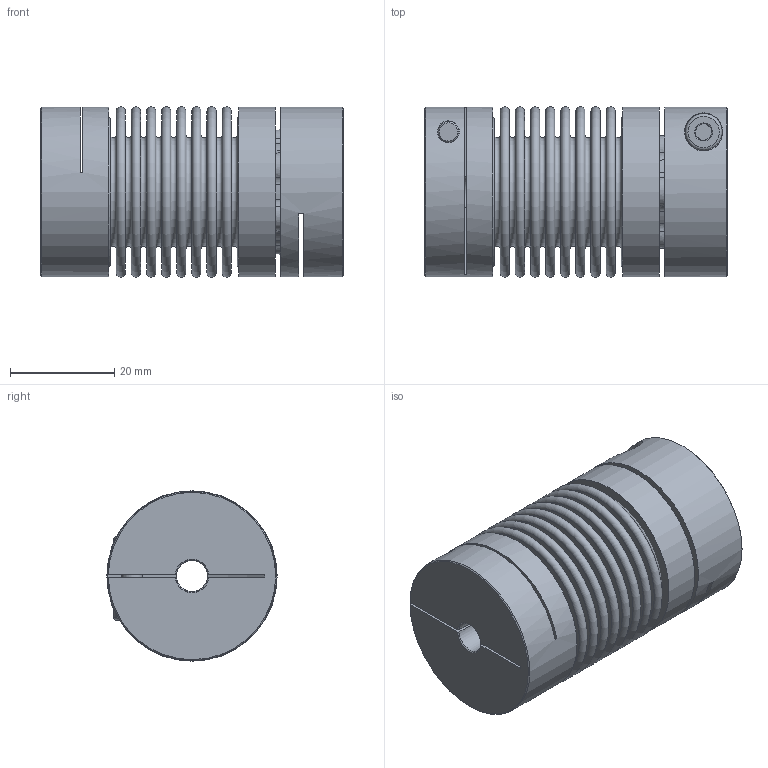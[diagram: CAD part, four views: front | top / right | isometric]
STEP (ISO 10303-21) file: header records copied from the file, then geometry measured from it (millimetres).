
FILE_DESCRIPTION( ( 'KBE1/14 - N7H8 - N14H7 - 98 Sh' ), '1' );
FILE_NAME( 'K:/Konstruktion/Fertigungszeichnungen/Metallbalgkupplung/KB2P/45/KB2P-45-58.stp', '14.12.2015', ( 'KBK-Antriebstechnik' ), ( 'KBK-Antriebstechnik' ), 'PSStep 16.0.42', 'Solid Edge St6', ' ' );
FILE_SCHEMA( ( 'AUTOMOTIVE_DESIGN { 1 0 10303 214 1 1 1 1 }' ) );
Length unit declared in the file: millimetre
Products named in the file (6): Assem1; Stecknabe KB2P-45; BL45_Standard_0; KN45_Standard_2; ISO EN DIN 4762 M4x12; Balgaufnahme KB2P-45 für Step
Assembly tree (6 placements, depth 2):
  Assem1
    Stecknabe KB2P-45
    BL45_Standard_0
    KN45_Standard_2
    ISO EN DIN 4762 M4x12  x2
    Balgaufnahme KB2P-45 für Step
Bounding box: 57.95 x 32.67 x 32.67 mm (x, y, z)
Volume: 27940.7 mm3; surface area: 32996 mm2
Topology: 6 solids, 6 shells, 221 faces, 462 edges, 298 vertices
Faces by surface type: plane 85, cone 66, torus 43, cylinder 27
Full cylindrical faces by diameter (mm): 3.242 x1, 3.5 x2, 4 x5, 4.2 x2, 6 x2, 7 x2, 7.3 x2, 28.2 x2, 28.8 x2, 32.5 x3
Entity records: 7047 total; most frequent: CARTESIAN_POINT 1142, DIRECTION 970, ORIENTED_EDGE 698, AXIS2_PLACEMENT_3D 438, EDGE_CURVE 349, EDGE_LOOP 314, VERTEX_POINT 281, FACE_OUTER_BOUND 256
